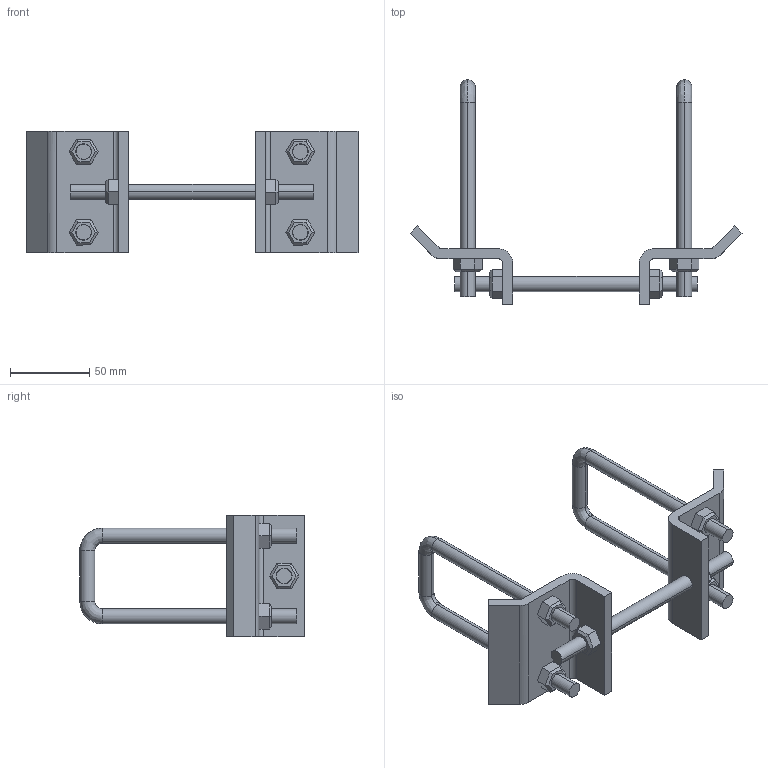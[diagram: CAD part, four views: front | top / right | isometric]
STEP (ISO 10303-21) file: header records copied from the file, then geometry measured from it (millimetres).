
FILE_DESCRIPTION(('TurboCAD Mac Pro'),'Build 980');
FILE_NAME('P2868A.stp',' ',(''),(''),'ACIS Interop','IMSI','TurboCAD Mac Pro BY IMSI, INCORPORATED');
FILE_SCHEMA(('automotive_design'));
Length unit declared in the file: inch
Products named in the file (11): 1; 2; 3; 4; 5; 6; 7; 8; 9; 10; 11
Bounding box: 209 x 141.31 x 76.2 mm (x, y, z)
Volume: 149887.4 mm3; surface area: 62388.9 mm2
Topology: 11 solids, 11 shells, 176 faces, 410 edges, 256 vertices
Faces by surface type: plane 110, bspline 40, cylinder 26
Entity records: 9070 total; most frequent: CARTESIAN_POINT 1837, ORIENTED_EDGE 820, DIRECTION 692, STYLED_ITEM 535, PRESENTATION_STYLE_ASSIGNMENT 535, COLOUR_RGB 535, EDGE_CURVE 410, CURVE_STYLE 348
